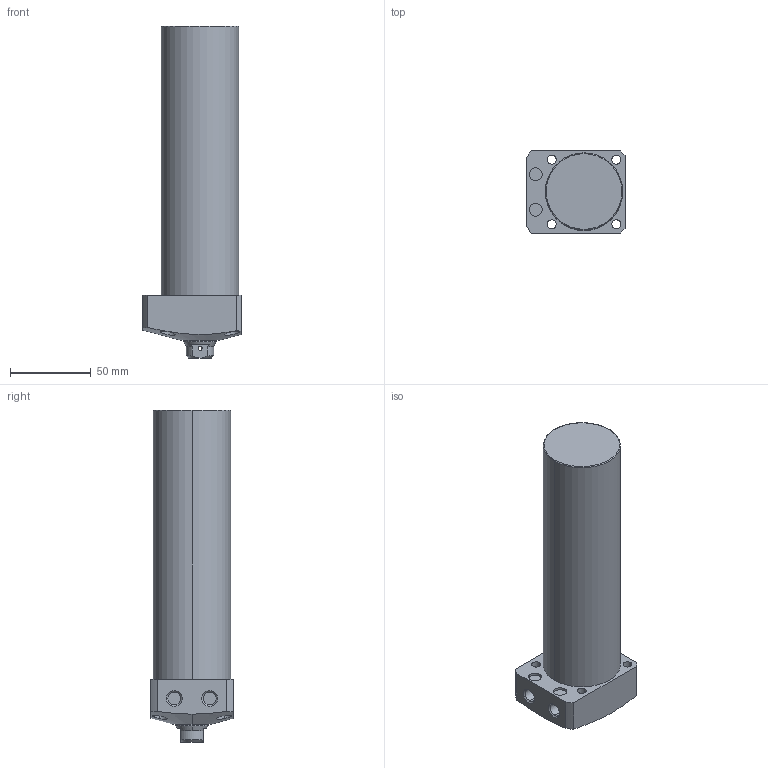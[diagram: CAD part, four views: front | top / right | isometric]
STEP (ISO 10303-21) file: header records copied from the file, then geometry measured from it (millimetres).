
FILE_DESCRIPTION (( 'STEP AP203' ), '1' );
FILE_NAME ('CLL-048CB-140.STEP', '2019-12-21T07:55:27', ( '' ), ( '' ), 'SwSTEP 2.0', 'SolidWorks 2015', '' );
FILE_SCHEMA (( 'CONFIG_CONTROL_DESIGN' ));
Length unit declared in the file: millimetre
Products named in the file (1): CLL-048CB-140
Bounding box: 61 x 51 x 206 mm (x, y, z)
Volume: 376360.5 mm3; surface area: 39998 mm2
Topology: 1 solids, 1 shells, 78 faces, 182 edges, 115 vertices
Faces by surface type: cylinder 39, plane 22, cone 15, torus 2
Entity records: 2751 total; most frequent: CARTESIAN_POINT 852, DIRECTION 394, ORIENTED_EDGE 360, EDGE_CURVE 180, AXIS2_PLACEMENT_3D 163, VERTEX_POINT 115, EDGE_LOOP 101, CIRCLE 84
